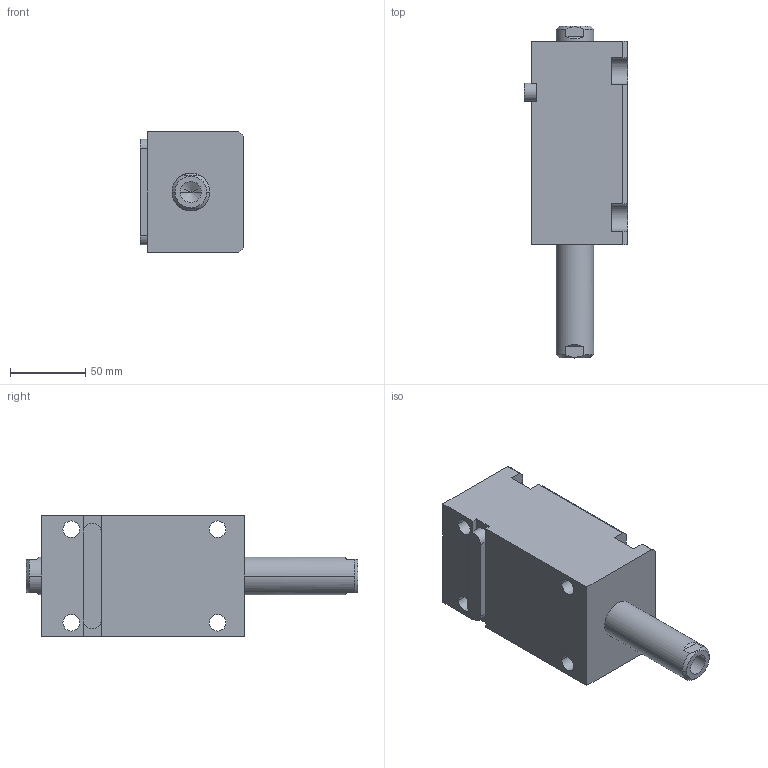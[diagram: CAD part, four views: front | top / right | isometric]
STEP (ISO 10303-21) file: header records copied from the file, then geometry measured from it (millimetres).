
FILE_DESCRIPTION (( 'STEP AP214' ), '1' );
FILE_NAME ('chtb-lw40x65n_asm.STEP', '2018-06-05T02:11:21', ( 'Windows' ), ( 'Microsoft' ), 'SwSTEP 2.0', 'SolidWorks 2015', '' );
FILE_SCHEMA (( 'AUTOMOTIVE_DESIGN' ));
Length unit declared in the file: millimetre
Products named in the file (5): CHTB-SW40X65NHSG; CHTB-SD40QG; CHTB-LW40X65NBT; CHTB-LA40PJ; chtb-lw40x65n_asm
Assembly tree (4 placements, depth 2):
  chtb-lw40x65n_asm
    CHTB-LA40PJ
    CHTB-LW40X65NBT
    CHTB-SD40QG
    CHTB-SW40X65NHSG
Bounding box: 68.5 x 220 x 80 mm (x, y, z)
Volume: 639275.9 mm3; surface area: 109202.9 mm2
Topology: 4 solids, 4 shells, 172 faces, 462 edges, 304 vertices
Faces by surface type: cylinder 77, plane 52, cone 17, bspline 14, torus 12
Entity records: 10654 total; most frequent: CARTESIAN_POINT 6188, ORIENTED_EDGE 904, DIRECTION 853, EDGE_CURVE 452, AXIS2_PLACEMENT_3D 340, VERTEX_POINT 304, EDGE_LOOP 204, CIRCLE 175
